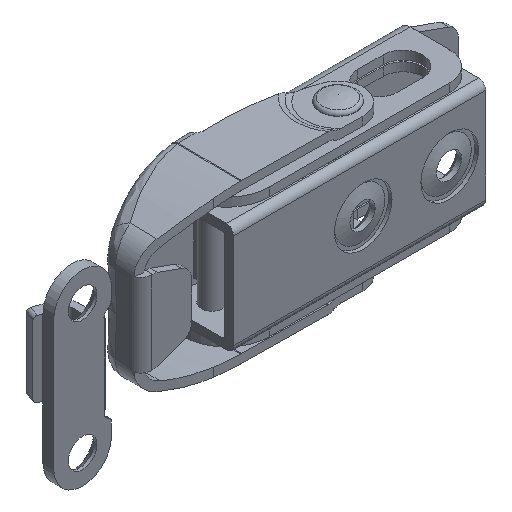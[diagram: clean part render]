
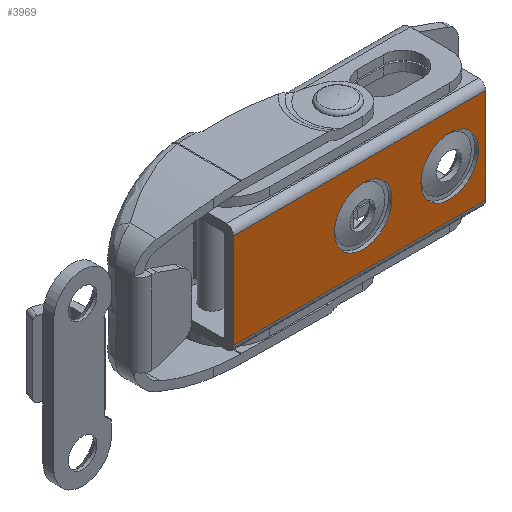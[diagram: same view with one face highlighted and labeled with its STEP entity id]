
A CAD part, isometric view. The second image highlights one B-rep face of the part: STEP entity #3969.
In plain terms, the highlighted planar face has unit normal (0, -1, 0).
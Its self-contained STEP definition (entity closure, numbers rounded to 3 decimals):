
#172=LINE('',#5766,#475);
#181=LINE('',#5801,#484);
#189=LINE('',#5824,#492);
#202=LINE('',#5869,#505);
#475=VECTOR('',#4641,35.);
#484=VECTOR('',#4670,13.2);
#492=VECTOR('',#4688,35.);
#505=VECTOR('',#4725,13.2);
#920=FACE_BOUND('',#1260,.T.);
#921=FACE_BOUND('',#1261,.T.);
#1000=FACE_OUTER_BOUND('',#1259,.T.);
#1259=EDGE_LOOP('',(#2895,#2896,#2897,#2898));
#1260=EDGE_LOOP('',(#2899));
#1261=EDGE_LOOP('',(#2900));
#1466=CIRCLE('',#4159,4.);
#1470=CIRCLE('',#4166,4.);
#1650=VERTEX_POINT('',#5718);
#1654=VERTEX_POINT('',#5729);
#1664=VERTEX_POINT('',#5759);
#1667=VERTEX_POINT('',#5764);
#1683=VERTEX_POINT('',#5800);
#1692=VERTEX_POINT('',#5820);
#2048=EDGE_CURVE('',#1650,#1650,#1466,.T.);
#2052=EDGE_CURVE('',#1654,#1654,#1470,.T.);
#2065=EDGE_CURVE('',#1667,#1664,#172,.T.);
#2082=EDGE_CURVE('',#1664,#1683,#181,.T.);
#2094=EDGE_CURVE('',#1683,#1692,#189,.T.);
#2117=EDGE_CURVE('',#1667,#1692,#202,.T.);
#2895=ORIENTED_EDGE('',*,*,#2065,.F.);
#2896=ORIENTED_EDGE('',*,*,#2117,.T.);
#2897=ORIENTED_EDGE('',*,*,#2094,.F.);
#2898=ORIENTED_EDGE('',*,*,#2082,.F.);
#2899=ORIENTED_EDGE('',*,*,#2048,.T.);
#2900=ORIENTED_EDGE('',*,*,#2052,.T.);
#3840=PLANE('',#4265);
#3969=ADVANCED_FACE('',(#1000,#920,#921),#3840,.T.);
#4159=AXIS2_PLACEMENT_3D('',#5719,#4582,#4583);
#4166=AXIS2_PLACEMENT_3D('',#5730,#4596,#4597);
#4265=AXIS2_PLACEMENT_3D('',#6038,#4868,#4869);
#4582=DIRECTION('center_axis',(0.,1.,0.));
#4583=DIRECTION('ref_axis',(-1.,0.,0.));
#4596=DIRECTION('center_axis',(0.,1.,0.));
#4597=DIRECTION('ref_axis',(-1.,0.,0.));
#4641=DIRECTION('',(-1.,0.,0.));
#4670=DIRECTION('',(0.,0.,1.));
#4688=DIRECTION('',(1.,0.,0.));
#4725=DIRECTION('',(0.,0.,1.));
#4868=DIRECTION('center_axis',(0.,-1.,0.));
#4869=DIRECTION('ref_axis',(1.,0.,0.));
#5718=CARTESIAN_POINT('',(8.5,0.,0.));
#5719=CARTESIAN_POINT('Origin',(12.5,0.,0.));
#5729=CARTESIAN_POINT('',(-3.5,0.,0.));
#5730=CARTESIAN_POINT('Origin',(0.5,0.,
0.));
#5759=CARTESIAN_POINT('',(-17.5,0.,-6.6));
#5764=CARTESIAN_POINT('',(17.5,0.,-6.6));
#5766=CARTESIAN_POINT('',(-15.75,0.,-6.6));
#5800=CARTESIAN_POINT('',(-17.5,0.,6.6));
#5801=CARTESIAN_POINT('',(-17.5,0.,0.));
#5820=CARTESIAN_POINT('',(17.5,0.,6.6));
#5824=CARTESIAN_POINT('',(-15.75,0.,6.6));
#5869=CARTESIAN_POINT('',(17.5,0.,0.));
#6038=CARTESIAN_POINT('Origin',(-17.5,0.,0.));
